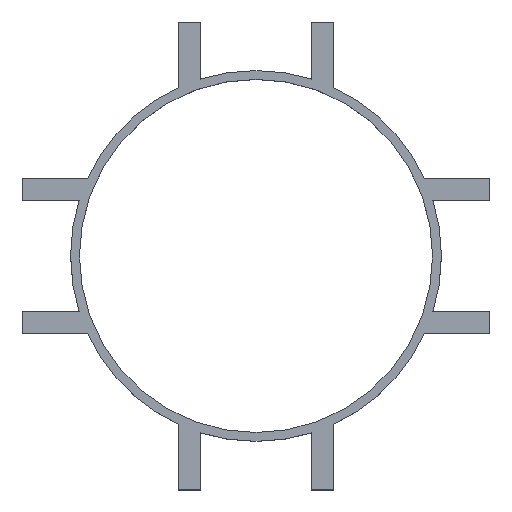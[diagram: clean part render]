
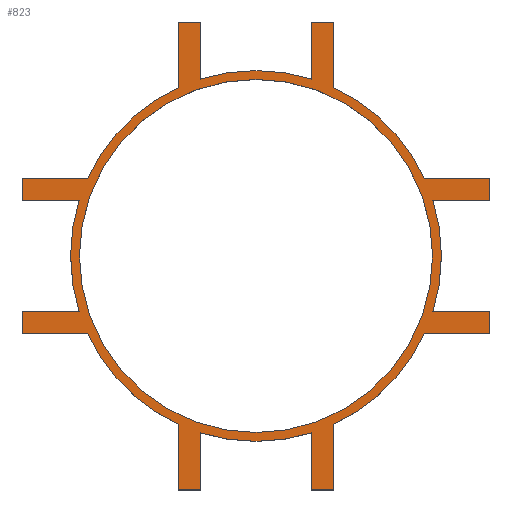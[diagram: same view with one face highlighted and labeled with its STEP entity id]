
A CAD part, top view. The second image highlights one B-rep face of the part: STEP entity #823.
In plain terms, the highlighted planar face has unit normal (0, 0, 1).
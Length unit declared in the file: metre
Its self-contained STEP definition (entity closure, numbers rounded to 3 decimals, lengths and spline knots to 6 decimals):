
#13=PLANE('',#897);
#38=CIRCLE('',#870,0.042);
#40=CIRCLE('',#873,0.042);
#42=CIRCLE('',#876,0.042);
#44=CIRCLE('',#879,0.042);
#46=CIRCLE('',#882,0.042);
#48=CIRCLE('',#885,0.042);
#50=CIRCLE('',#888,0.042);
#52=CIRCLE('',#891,0.042);
#55=CIRCLE('',#896,0.04);
#139=ORIENTED_EDGE('',*,*,#357,.F.);
#140=ORIENTED_EDGE('',*,*,#317,.T.);
#141=ORIENTED_EDGE('',*,*,#358,.T.);
#142=ORIENTED_EDGE('',*,*,#359,.F.);
#143=ORIENTED_EDGE('',*,*,#360,.F.);
#144=ORIENTED_EDGE('',*,*,#320,.T.);
#145=ORIENTED_EDGE('',*,*,#361,.F.);
#146=ORIENTED_EDGE('',*,*,#362,.T.);
#147=ORIENTED_EDGE('',*,*,#363,.T.);
#148=ORIENTED_EDGE('',*,*,#309,.T.);
#149=ORIENTED_EDGE('',*,*,#364,.T.);
#150=ORIENTED_EDGE('',*,*,#365,.F.);
#151=ORIENTED_EDGE('',*,*,#366,.F.);
#152=ORIENTED_EDGE('',*,*,#312,.T.);
#153=ORIENTED_EDGE('',*,*,#367,.F.);
#154=ORIENTED_EDGE('',*,*,#368,.T.);
#155=ORIENTED_EDGE('',*,*,#369,.T.);
#156=ORIENTED_EDGE('',*,*,#301,.T.);
#157=ORIENTED_EDGE('',*,*,#370,.T.);
#158=ORIENTED_EDGE('',*,*,#371,.F.);
#159=ORIENTED_EDGE('',*,*,#372,.F.);
#160=ORIENTED_EDGE('',*,*,#304,.T.);
#161=ORIENTED_EDGE('',*,*,#373,.F.);
#162=ORIENTED_EDGE('',*,*,#374,.T.);
#163=ORIENTED_EDGE('',*,*,#375,.T.);
#164=ORIENTED_EDGE('',*,*,#324,.T.);
#165=ORIENTED_EDGE('',*,*,#376,.T.);
#166=ORIENTED_EDGE('',*,*,#377,.F.);
#167=ORIENTED_EDGE('',*,*,#378,.F.);
#168=ORIENTED_EDGE('',*,*,#328,.T.);
#169=ORIENTED_EDGE('',*,*,#379,.F.);
#170=ORIENTED_EDGE('',*,*,#380,.T.);
#171=ORIENTED_EDGE('',*,*,#381,.T.);
#301=EDGE_CURVE('',#416,#414,#38,.T.);
#304=EDGE_CURVE('',#418,#419,#40,.T.);
#309=EDGE_CURVE('',#424,#422,#42,.T.);
#312=EDGE_CURVE('',#426,#427,#44,.T.);
#317=EDGE_CURVE('',#432,#430,#46,.T.);
#320=EDGE_CURVE('',#434,#435,#48,.T.);
#324=EDGE_CURVE('',#438,#439,#50,.T.);
#328=EDGE_CURVE('',#442,#443,#52,.T.);
#357=EDGE_CURVE('',#463,#463,#55,.T.);
#358=EDGE_CURVE('',#430,#464,#536,.T.);
#359=EDGE_CURVE('',#465,#464,#537,.T.);
#360=EDGE_CURVE('',#434,#465,#538,.T.);
#361=EDGE_CURVE('',#466,#435,#539,.T.);
#362=EDGE_CURVE('',#466,#467,#540,.T.);
#363=EDGE_CURVE('',#467,#424,#541,.T.);
#364=EDGE_CURVE('',#422,#468,#542,.T.);
#365=EDGE_CURVE('',#469,#468,#543,.T.);
#366=EDGE_CURVE('',#426,#469,#544,.T.);
#367=EDGE_CURVE('',#470,#427,#545,.T.);
#368=EDGE_CURVE('',#470,#471,#546,.T.);
#369=EDGE_CURVE('',#471,#416,#547,.T.);
#370=EDGE_CURVE('',#414,#472,#548,.T.);
#371=EDGE_CURVE('',#473,#472,#549,.T.);
#372=EDGE_CURVE('',#418,#473,#550,.T.);
#373=EDGE_CURVE('',#474,#419,#551,.T.);
#374=EDGE_CURVE('',#474,#475,#552,.T.);
#375=EDGE_CURVE('',#475,#438,#553,.T.);
#376=EDGE_CURVE('',#439,#476,#554,.T.);
#377=EDGE_CURVE('',#477,#476,#555,.T.);
#378=EDGE_CURVE('',#442,#477,#556,.T.);
#379=EDGE_CURVE('',#478,#443,#557,.T.);
#380=EDGE_CURVE('',#478,#479,#558,.T.);
#381=EDGE_CURVE('',#479,#432,#559,.T.);
#414=VERTEX_POINT('',#1185);
#416=VERTEX_POINT('',#1188);
#418=VERTEX_POINT('',#1194);
#419=VERTEX_POINT('',#1195);
#422=VERTEX_POINT('',#1203);
#424=VERTEX_POINT('',#1206);
#426=VERTEX_POINT('',#1212);
#427=VERTEX_POINT('',#1213);
#430=VERTEX_POINT('',#1221);
#432=VERTEX_POINT('',#1224);
#434=VERTEX_POINT('',#1230);
#435=VERTEX_POINT('',#1231);
#438=VERTEX_POINT('',#1239);
#439=VERTEX_POINT('',#1240);
#442=VERTEX_POINT('',#1248);
#443=VERTEX_POINT('',#1249);
#463=VERTEX_POINT('',#1300);
#464=VERTEX_POINT('',#1303);
#465=VERTEX_POINT('',#1305);
#466=VERTEX_POINT('',#1308);
#467=VERTEX_POINT('',#1310);
#468=VERTEX_POINT('',#1313);
#469=VERTEX_POINT('',#1315);
#470=VERTEX_POINT('',#1318);
#471=VERTEX_POINT('',#1320);
#472=VERTEX_POINT('',#1323);
#473=VERTEX_POINT('',#1325);
#474=VERTEX_POINT('',#1328);
#475=VERTEX_POINT('',#1330);
#476=VERTEX_POINT('',#1333);
#477=VERTEX_POINT('',#1335);
#478=VERTEX_POINT('',#1338);
#479=VERTEX_POINT('',#1340);
#536=LINE('',#1302,#616);
#537=LINE('',#1304,#617);
#538=LINE('',#1306,#618);
#539=LINE('',#1307,#619);
#540=LINE('',#1309,#620);
#541=LINE('',#1311,#621);
#542=LINE('',#1312,#622);
#543=LINE('',#1314,#623);
#544=LINE('',#1316,#624);
#545=LINE('',#1317,#625);
#546=LINE('',#1319,#626);
#547=LINE('',#1321,#627);
#548=LINE('',#1322,#628);
#549=LINE('',#1324,#629);
#550=LINE('',#1326,#630);
#551=LINE('',#1327,#631);
#552=LINE('',#1329,#632);
#553=LINE('',#1331,#633);
#554=LINE('',#1332,#634);
#555=LINE('',#1334,#635);
#556=LINE('',#1336,#636);
#557=LINE('',#1337,#637);
#558=LINE('',#1339,#638);
#559=LINE('',#1341,#639);
#616=VECTOR('',#1046,1.);
#617=VECTOR('',#1047,1.);
#618=VECTOR('',#1048,1.);
#619=VECTOR('',#1049,1.);
#620=VECTOR('',#1050,1.);
#621=VECTOR('',#1051,1.);
#622=VECTOR('',#1052,1.);
#623=VECTOR('',#1053,1.);
#624=VECTOR('',#1054,1.);
#625=VECTOR('',#1055,1.);
#626=VECTOR('',#1056,1.);
#627=VECTOR('',#1057,1.);
#628=VECTOR('',#1058,1.);
#629=VECTOR('',#1059,1.);
#630=VECTOR('',#1060,1.);
#631=VECTOR('',#1061,1.);
#632=VECTOR('',#1062,1.);
#633=VECTOR('',#1063,1.);
#634=VECTOR('',#1064,1.);
#635=VECTOR('',#1065,1.);
#636=VECTOR('',#1066,1.);
#637=VECTOR('',#1067,1.);
#638=VECTOR('',#1068,1.);
#639=VECTOR('',#1069,1.);
#668=EDGE_LOOP('',(#139));
#669=EDGE_LOOP('',(#140,#141,#142,#143,#144,#145,#146,#147,#148,#149,#150,
#151,#152,#153,#154,#155,#156,#157,#158,#159,#160,#161,#162,#163,#164,#165,
#166,#167,#168,#169,#170,#171));
#738=FACE_BOUND('',#668,.T.);
#739=FACE_BOUND('',#669,.T.);
#823=ADVANCED_FACE('',(#738,#739),#13,.T.);
#870=AXIS2_PLACEMENT_3D('',#1187,#951,#952);
#873=AXIS2_PLACEMENT_3D('',#1193,#958,#959);
#876=AXIS2_PLACEMENT_3D('',#1205,#967,#968);
#879=AXIS2_PLACEMENT_3D('',#1211,#974,#975);
#882=AXIS2_PLACEMENT_3D('',#1223,#983,#984);
#885=AXIS2_PLACEMENT_3D('',#1229,#990,#991);
#888=AXIS2_PLACEMENT_3D('',#1238,#998,#999);
#891=AXIS2_PLACEMENT_3D('',#1247,#1006,#1007);
#896=AXIS2_PLACEMENT_3D('',#1299,#1042,#1043);
#897=AXIS2_PLACEMENT_3D('',#1301,#1044,#1045);
#951=DIRECTION('',(0.,0.,1.));
#952=DIRECTION('',(1.,0.,0.));
#958=DIRECTION('',(0.,0.,1.));
#959=DIRECTION('',(1.,0.,0.));
#967=DIRECTION('',(0.,0.,1.));
#968=DIRECTION('',(1.,0.,0.));
#974=DIRECTION('',(0.,0.,1.));
#975=DIRECTION('',(1.,0.,0.));
#983=DIRECTION('',(0.,0.,1.));
#984=DIRECTION('',(1.,0.,0.));
#990=DIRECTION('',(0.,0.,1.));
#991=DIRECTION('',(1.,0.,0.));
#998=DIRECTION('',(0.,0.,1.));
#999=DIRECTION('',(1.,0.,0.));
#1006=DIRECTION('',(0.,0.,1.));
#1007=DIRECTION('',(1.,0.,0.));
#1042=DIRECTION('',(0.,0.,1.));
#1043=DIRECTION('',(1.,0.,0.));
#1044=DIRECTION('',(0.,0.,1.));
#1045=DIRECTION('',(1.,0.,0.));
#1046=DIRECTION('',(1.,0.,0.));
#1047=DIRECTION('',(0.,-1.,0.));
#1048=DIRECTION('',(1.,0.,0.));
#1049=DIRECTION('',(-1.,0.,0.));
#1050=DIRECTION('',(0.,1.,0.));
#1051=DIRECTION('',(-1.,0.,0.));
#1052=DIRECTION('',(0.,1.,0.));
#1053=DIRECTION('',(1.,0.,0.));
#1054=DIRECTION('',(0.,1.,0.));
#1055=DIRECTION('',(0.,-1.,0.));
#1056=DIRECTION('',(-1.,0.,0.));
#1057=DIRECTION('',(0.,-1.,0.));
#1058=DIRECTION('',(-1.,0.,0.));
#1059=DIRECTION('',(0.,1.,0.));
#1060=DIRECTION('',(-1.,0.,0.));
#1061=DIRECTION('',(1.,0.,0.));
#1062=DIRECTION('',(0.,-1.,0.));
#1063=DIRECTION('',(1.,0.,0.));
#1064=DIRECTION('',(0.,-1.,0.));
#1065=DIRECTION('',(-1.,0.,0.));
#1066=DIRECTION('',(0.,-1.,0.));
#1067=DIRECTION('',(0.,1.,0.));
#1068=DIRECTION('',(1.,0.,0.));
#1069=DIRECTION('',(0.,1.,0.));
#1185=CARTESIAN_POINT('',(-0.038158,0.01755,0.012));
#1187=CARTESIAN_POINT('',(0.,0.,0.012));
#1188=CARTESIAN_POINT('',(-0.01755,0.038158,0.012));
#1193=CARTESIAN_POINT('',(0.,0.,0.012));
#1194=CARTESIAN_POINT('',(-0.040081,0.01255,0.012));
#1195=CARTESIAN_POINT('',(-0.040081,-0.01255,0.012));
#1203=CARTESIAN_POINT('',(0.01755,0.038158,0.012));
#1205=CARTESIAN_POINT('',(0.,0.,0.012));
#1206=CARTESIAN_POINT('',(0.038158,0.01755,0.012));
#1211=CARTESIAN_POINT('',(0.,0.,0.012));
#1212=CARTESIAN_POINT('',(0.01255,0.040081,0.012));
#1213=CARTESIAN_POINT('',(-0.01255,0.040081,0.012));
#1221=CARTESIAN_POINT('',(0.038158,-0.01755,0.012));
#1223=CARTESIAN_POINT('',(0.,0.,0.012));
#1224=CARTESIAN_POINT('',(0.01755,-0.038158,0.012));
#1229=CARTESIAN_POINT('',(0.,0.,0.012));
#1230=CARTESIAN_POINT('',(0.040081,-0.01255,0.012));
#1231=CARTESIAN_POINT('',(0.040081,0.01255,0.012));
#1238=CARTESIAN_POINT('',(0.,0.,0.012));
#1239=CARTESIAN_POINT('',(-0.038158,-0.01755,0.012));
#1240=CARTESIAN_POINT('',(-0.01755,-0.038158,0.012));
#1247=CARTESIAN_POINT('',(0.,0.,0.012));
#1248=CARTESIAN_POINT('',(-0.01255,-0.040081,0.012));
#1249=CARTESIAN_POINT('',(0.01255,-0.040081,0.012));
#1299=CARTESIAN_POINT('',(0.,0.,0.012));
#1300=CARTESIAN_POINT('',(0.04,0.,0.012));
#1301=CARTESIAN_POINT('',(0.,0.,0.012));
#1302=CARTESIAN_POINT('',(0.044079,-0.01755,0.012));
#1303=CARTESIAN_POINT('',(0.053,-0.01755,0.012));
#1304=CARTESIAN_POINT('',(0.053,-0.01505,0.012));
#1305=CARTESIAN_POINT('',(0.053,-0.01255,0.012));
#1306=CARTESIAN_POINT('',(0.0515,-0.01255,0.012));
#1307=CARTESIAN_POINT('',(0.045041,0.01255,0.012));
#1308=CARTESIAN_POINT('',(0.053,0.01255,0.012));
#1309=CARTESIAN_POINT('',(0.053,0.01505,0.012));
#1310=CARTESIAN_POINT('',(0.053,0.01755,0.012));
#1311=CARTESIAN_POINT('',(0.0515,0.01755,0.012));
#1312=CARTESIAN_POINT('',(0.01755,0.044079,0.012));
#1313=CARTESIAN_POINT('',(0.01755,0.053,0.012));
#1314=CARTESIAN_POINT('',(0.01505,0.053,0.012));
#1315=CARTESIAN_POINT('',(0.01255,0.053,0.012));
#1316=CARTESIAN_POINT('',(0.01255,0.0515,0.012));
#1317=CARTESIAN_POINT('',(-0.01255,0.045041,0.012));
#1318=CARTESIAN_POINT('',(-0.01255,0.053,0.012));
#1319=CARTESIAN_POINT('',(-0.01505,0.053,0.012));
#1320=CARTESIAN_POINT('',(-0.01755,0.053,0.012));
#1321=CARTESIAN_POINT('',(-0.01755,0.0515,0.012));
#1322=CARTESIAN_POINT('',(-0.044079,0.01755,0.012));
#1323=CARTESIAN_POINT('',(-0.053,0.01755,0.012));
#1324=CARTESIAN_POINT('',(-0.053,0.01505,0.012));
#1325=CARTESIAN_POINT('',(-0.053,0.01255,0.012));
#1326=CARTESIAN_POINT('',(-0.0515,0.01255,0.012));
#1327=CARTESIAN_POINT('',(-0.045041,-0.01255,0.012));
#1328=CARTESIAN_POINT('',(-0.053,-0.01255,0.012));
#1329=CARTESIAN_POINT('',(-0.053,-0.01505,0.012));
#1330=CARTESIAN_POINT('',(-0.053,-0.01755,0.012));
#1331=CARTESIAN_POINT('',(-0.0515,-0.01755,0.012));
#1332=CARTESIAN_POINT('',(-0.01755,-0.044079,0.012));
#1333=CARTESIAN_POINT('',(-0.01755,-0.053,0.012));
#1334=CARTESIAN_POINT('',(-0.01505,-0.053,0.012));
#1335=CARTESIAN_POINT('',(-0.01255,-0.053,0.012));
#1336=CARTESIAN_POINT('',(-0.01255,-0.0515,0.012));
#1337=CARTESIAN_POINT('',(0.01255,-0.045041,0.012));
#1338=CARTESIAN_POINT('',(0.01255,-0.053,0.012));
#1339=CARTESIAN_POINT('',(0.01505,-0.053,0.012));
#1340=CARTESIAN_POINT('',(0.01755,-0.053,0.012));
#1341=CARTESIAN_POINT('',(0.01755,-0.0515,0.012));
